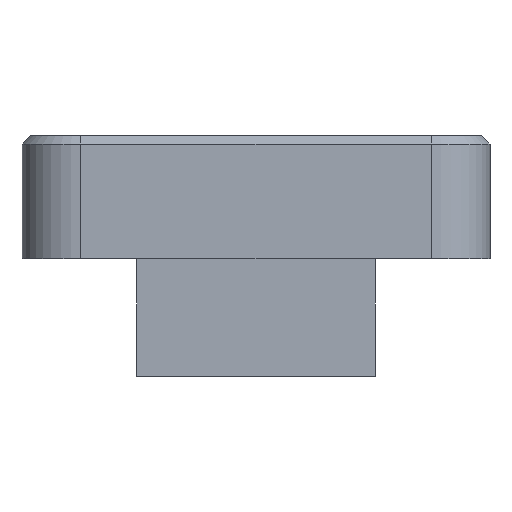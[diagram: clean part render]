
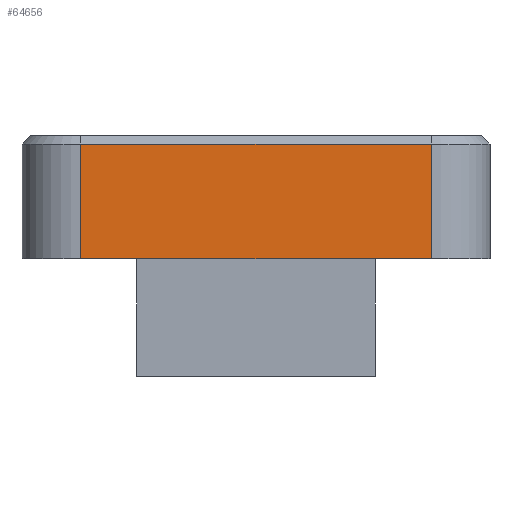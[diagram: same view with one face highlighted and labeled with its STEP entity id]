
A CAD part, front view. The second image highlights one B-rep face of the part: STEP entity #64656.
In plain terms, the highlighted planar face has unit normal (0, -1, 0) as drawn and (0, 0, 1) by its records, which use the part's own axes.
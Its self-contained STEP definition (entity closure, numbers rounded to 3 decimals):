
#1147 = CARTESIAN_POINT ( 'NONE',  ( 16.8, -9.9, 22.45 ) ) ;
#5190 = LINE ( 'NONE', #58497, #18504 ) ;
#13149 = PLANE ( 'NONE',  #13691 ) ;
#13691 = AXIS2_PLACEMENT_3D ( 'NONE', #35586, #47592, #54119 ) ;
#15039 = EDGE_CURVE ( 'NONE', #21425, #29374, #5190, .T. ) ;
#18504 = VECTOR ( 'NONE', #39585, 1000. ) ;
#19188 = CARTESIAN_POINT ( 'NONE',  ( 16.8, 1.1, 22.45 ) ) ;
#19752 = EDGE_CURVE ( 'NONE', #26350, #63835, #40690, .T. ) ;
#21121 = CARTESIAN_POINT ( 'NONE',  ( 16.8, -9.9, 22.45 ) ) ;
#21425 = VERTEX_POINT ( 'NONE', #45188 ) ;
#23174 = EDGE_LOOP ( 'NONE', ( #58059, #28917, #44646, #33693 ) ) ;
#23582 = FACE_OUTER_BOUND ( 'NONE', #23174, .T. ) ;
#23637 = CARTESIAN_POINT ( 'NONE',  ( -16.8, 63.898, 22.45 ) ) ;
#23824 = LINE ( 'NONE', #19188, #30808 ) ;
#26239 = LINE ( 'NONE', #1147, #59217 ) ;
#26350 = VERTEX_POINT ( 'NONE', #58594 ) ;
#28917 = ORIENTED_EDGE ( 'NONE', *, *, #39803, .T. ) ;
#29374 = VERTEX_POINT ( 'NONE', #21121 ) ;
#30808 = VECTOR ( 'NONE', #66011, 1000. ) ;
#30901 = DIRECTION ( 'NONE',  ( -1., 0., 0. ) ) ;
#33693 = ORIENTED_EDGE ( 'NONE', *, *, #63323, .F. ) ;
#35586 = CARTESIAN_POINT ( 'NONE',  ( 16.8, 63.898, 22.45 ) ) ;
#39585 = DIRECTION ( 'NONE',  ( 0., -1., 0. ) ) ;
#39803 = EDGE_CURVE ( 'NONE', #21425, #26350, #23824, .T. ) ;
#40690 = LINE ( 'NONE', #23637, #56313 ) ;
#44646 = ORIENTED_EDGE ( 'NONE', *, *, #19752, .T. ) ;
#45188 = CARTESIAN_POINT ( 'NONE',  ( 16.8, 1.1, 22.45 ) ) ;
#47592 = DIRECTION ( 'NONE',  ( 0., 0., 1. ) ) ;
#49768 = CARTESIAN_POINT ( 'NONE',  ( -16.8, -9.9, 22.45 ) ) ;
#54119 = DIRECTION ( 'NONE',  ( 1., 0., 0. ) ) ;
#56313 = VECTOR ( 'NONE', #64291, 1000. ) ;
#58059 = ORIENTED_EDGE ( 'NONE', *, *, #15039, .F. ) ;
#58497 = CARTESIAN_POINT ( 'NONE',  ( 16.8, 63.898, 22.45 ) ) ;
#58594 = CARTESIAN_POINT ( 'NONE',  ( -16.8, 1.1, 22.45 ) ) ;
#59217 = VECTOR ( 'NONE', #30901, 1000. ) ;
#63323 = EDGE_CURVE ( 'NONE', #29374, #63835, #26239, .T. ) ;
#63835 = VERTEX_POINT ( 'NONE', #49768 ) ;
#64291 = DIRECTION ( 'NONE',  ( 0., -1., 0. ) ) ;
#64656 = ADVANCED_FACE ( 'NONE', ( #23582 ), #13149, .T. ) ;
#66011 = DIRECTION ( 'NONE',  ( -1., 0., 0. ) ) ;
